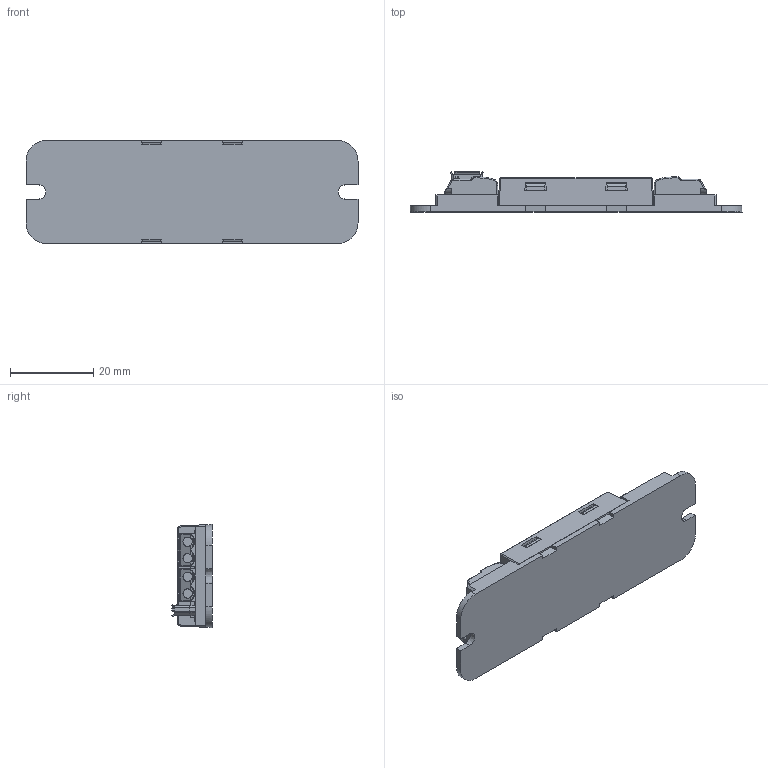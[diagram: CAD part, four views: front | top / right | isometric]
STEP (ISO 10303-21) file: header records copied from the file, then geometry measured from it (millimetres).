
FILE_DESCRIPTION(/* description */ ('STEP AP203'),/* implementation_level */ '2;1');
FILE_NAME(/* name */ 'APT-CC3-VS-M1.step',/* time_stamp */ '2026-01-14T14:07:46-05:00',/* author */ (''),/* organization */ (''),/* preprocessor_version */ 'ST-DEVELOPER v20.1',/* originating_system */ 'Autodesk Translation Framework v14.21.0.0',/* authorisation */ '');
FILE_SCHEMA (('AUTOMOTIVE_DESIGN { 1 0 10303 214 3 1 1 }'));
Length unit declared in the file: millimetre
Products named in the file (15): M1; Bottom part; Top Part; APT-CC3-VS-M1 V1.1_PCB; Parts; USB; X10; Connectors; X1; X2; X3; X4; PCB; Board; Open CASCADE STEP translator 7.8 1.2.1.1
Assembly tree (14 placements, depth 5):
  M1
    Bottom part
    Top Part
    APT-CC3-VS-M1 V1.1_PCB
      Parts
        USB
          X10
        Connectors
          X1
          X2
          X3
          X4
      PCB
        Board
          Open CASCADE STEP translator 7.8 1.2.1.1
Bounding box: 80 x 9.7 x 24.9 mm (x, y, z)
Volume: 11697 mm3; surface area: 13422 mm2
Topology: 14 solids, 14 shells, 1768 faces, 4846 edges, 3082 vertices
Faces by surface type: plane 1150, cylinder 488, torus 86, sphere 28, bspline 12, cone 4
Full cylindrical faces by diameter (mm): 2.25 x8
Entity records: 57354 total; most frequent: CARTESIAN_POINT 11276, ORIENTED_EDGE 9636, DIRECTION 9400, EDGE_CURVE 4818, LINE 3580, VECTOR 3580, VERTEX_POINT 3082, AXIS2_PLACEMENT_3D 2910
